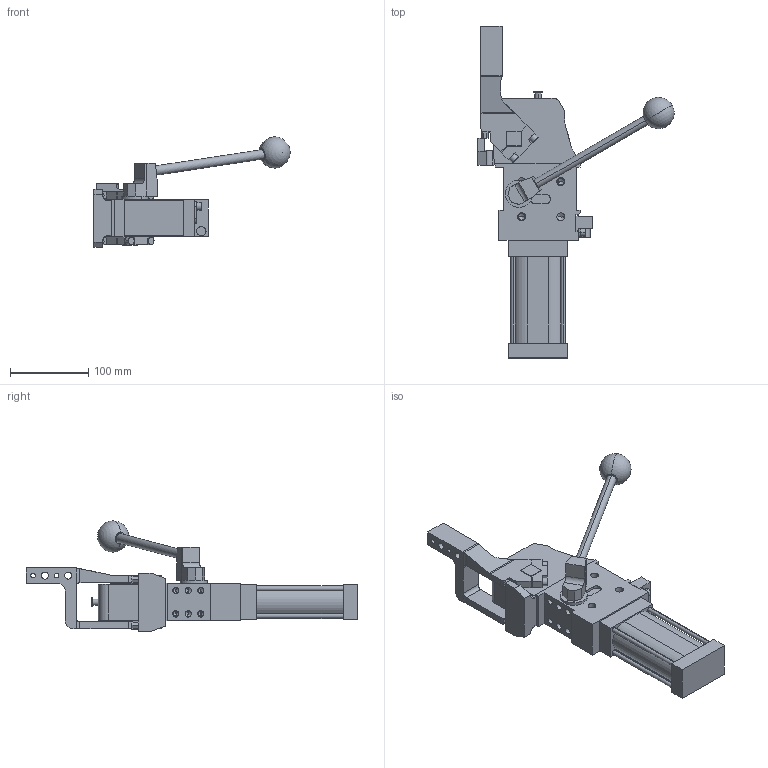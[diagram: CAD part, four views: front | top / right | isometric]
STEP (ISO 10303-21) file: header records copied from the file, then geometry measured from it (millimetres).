
FILE_DESCRIPTION (( 'STEP AP214' ), '1' );
FILE_NAME ('cplm50lath1si1g_107.STEP', '2023-01-26T13:28:41', ( '' ), ( '' ), 'SwSTEP 2.0', 'SolidWorks 2022', '' );
FILE_SCHEMA (( 'AUTOMOTIVE_DESIGN' ));
Length unit declared in the file: millimetre
Products named in the file (5): blocchetto_VEP_0; meccanica_cplm_50_tassello_esterno; leva_h1s_cpl50t; cplm50lath1si1g_107; comando_manuale_cplm_50
Assembly tree (4 placements, depth 2):
  cplm50lath1si1g_107
    meccanica_cplm_50_tassello_esterno
    blocchetto_VEP_0
    leva_h1s_cpl50t
    comando_manuale_cplm_50
Bounding box: 251.06 x 424.5 x 141 mm (x, y, z)
Volume: 1501766.3 mm3; surface area: 188266.6 mm2
Topology: 4 solids, 4 shells, 466 faces, 1209 edges, 757 vertices
Faces by surface type: plane 245, cylinder 169, cone 50, sphere 2
Entity records: 15492 total; most frequent: CARTESIAN_POINT 2485, DIRECTION 2446, ORIENTED_EDGE 2316, EDGE_CURVE 1158, AXIS2_PLACEMENT_3D 829, VECTOR 788, LINE 788, VERTEX_POINT 754
